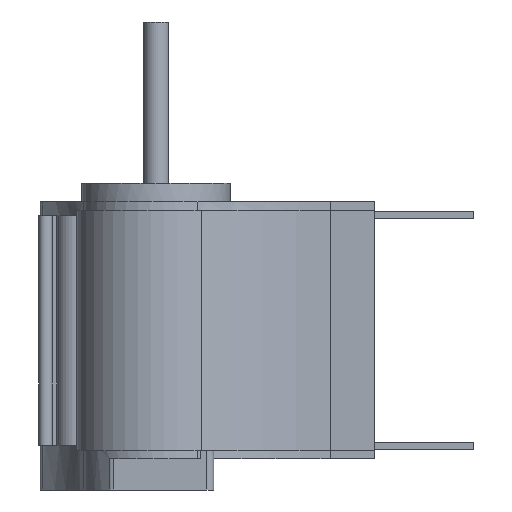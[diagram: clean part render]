
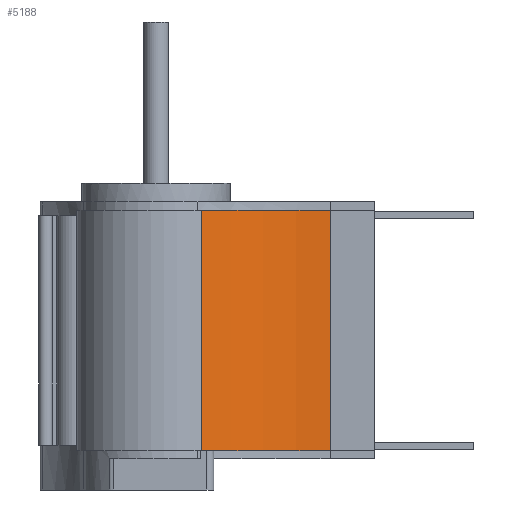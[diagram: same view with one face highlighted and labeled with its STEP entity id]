
A CAD part, front view. The second image highlights one B-rep face of the part: STEP entity #5188.
In plain terms, the highlighted cylindrical face has radius 182 mm (diameter 364 mm), a partial arc.
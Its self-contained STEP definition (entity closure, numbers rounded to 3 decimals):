
#238 = DIRECTION ( 'NONE',  ( 0., 0., -1. ) ) ;
#279 = DIRECTION ( 'NONE',  ( -1., 0., 0. ) ) ;
#291 = CARTESIAN_POINT ( 'NONE',  ( 204.399, -224., 97. ) ) ;
#445 = AXIS2_PLACEMENT_3D ( 'NONE', #291, #238, #279 ) ;
#520 = AXIS2_PLACEMENT_3D ( 'NONE', #3874, #3883, #3893 ) ;
#734 = EDGE_CURVE ( 'Edge7', #1307, #1444, #3132, .T. ) ;
#828 = EDGE_CURVE ( 'Edge9', #1591, #1809, #3000, .T. ) ;
#861 = EDGE_CURVE ( 'NONE', #1307, #1591, #3115, .T. ) ;
#1001 = AXIS2_PLACEMENT_3D ( 'NONE', #2484, #2372, #2619 ) ;
#1119 = EDGE_CURVE ( 'NONE', #1444, #1809, #2479, .T. ) ;
#1307 = VERTEX_POINT ( 'NONE', #4933 ) ;
#1444 = VERTEX_POINT ( 'NONE', #4856 ) ;
#1579 = ORIENTED_EDGE ( 'NONE', *, *, #734, .F. ) ;
#1591 = VERTEX_POINT ( 'NONE', #5004 ) ;
#1809 = VERTEX_POINT ( 'NONE', #4797 ) ;
#1874 = ORIENTED_EDGE ( 'NONE', *, *, #861, .T. ) ;
#1946 = ORIENTED_EDGE ( 'NONE', *, *, #1119, .F. ) ;
#2132 = ORIENTED_EDGE ( 'NONE', *, *, #828, .T. ) ;
#2372 = DIRECTION ( 'NONE',  ( 0., 0., -1. ) ) ;
#2397 = VECTOR ( 'NONE', #2865, 1000. ) ;
#2479 = LINE ( 'NONE', #2969, #2397 ) ;
#2484 = CARTESIAN_POINT ( 'NONE',  ( 204.399, -224., 103.7 ) ) ;
#2589 = FACE_OUTER_BOUND ( 'NONE', #4067, .T. ) ;
#2619 = DIRECTION ( 'NONE',  ( -1., 0., 0. ) ) ;
#2751 = CYLINDRICAL_SURFACE ( 'NONE', #1001, 182. ) ;
#2865 = DIRECTION ( 'NONE',  ( 0., 0., -1. ) ) ;
#2969 = CARTESIAN_POINT ( 'NONE',  ( 204.399, -42., 103.7 ) ) ;
#3000 = CIRCLE ( 'NONE', #520, 182. ) ;
#3115 = LINE ( 'NONE', #5083, #3453 ) ;
#3132 = CIRCLE ( 'NONE', #445, 182. ) ;
#3453 = VECTOR ( 'NONE', #5080, 1000. ) ;
#3874 = CARTESIAN_POINT ( 'NONE',  ( 204.399, -224., -97. ) ) ;
#3883 = DIRECTION ( 'NONE',  ( 0., 0., -1. ) ) ;
#3893 = DIRECTION ( 'NONE',  ( -1., 0., 0. ) ) ;
#4067 = EDGE_LOOP ( 'NONE', ( #1874, #2132, #1946, #1579 ) ) ;
#4797 = CARTESIAN_POINT ( 'NONE',  ( 204.399, -42., -97. ) ) ;
#4856 = CARTESIAN_POINT ( 'NONE',  ( 204.399, -42., 97. ) ) ;
#4933 = CARTESIAN_POINT ( 'NONE',  ( 100.527, -74.553, 97. ) ) ;
#5004 = CARTESIAN_POINT ( 'NONE',  ( 100.527, -74.553, -97. ) ) ;
#5080 = DIRECTION ( 'NONE',  ( 0., 0., -1. ) ) ;
#5083 = CARTESIAN_POINT ( 'NONE',  ( 100.527, -74.553, 103.7 ) ) ;
#5188 = ADVANCED_FACE ( 'NONE', ( #2589 ), #2751, .F. ) ;
